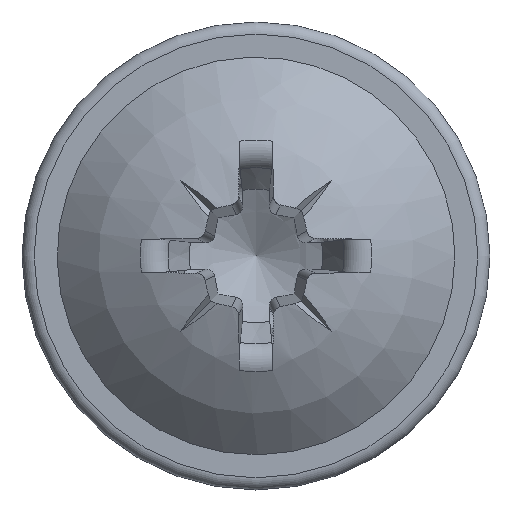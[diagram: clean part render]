
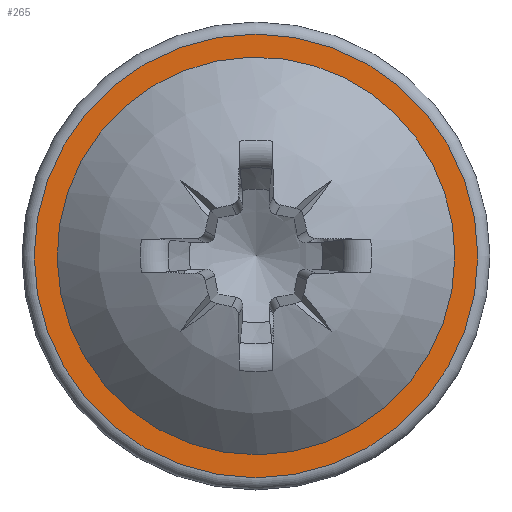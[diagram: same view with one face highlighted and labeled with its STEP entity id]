
A CAD part, top view. The second image highlights one B-rep face of the part: STEP entity #265.
In plain terms, the highlighted planar face has unit normal (0, 0, 1).
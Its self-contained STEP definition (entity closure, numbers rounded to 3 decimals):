
#71=PLANE('',#1502);
#239=FACE_BOUND('',#447,.T.);
#240=FACE_BOUND('',#448,.T.);
#265=ADVANCED_FACE('',(#239,#240),#71,.F.);
#447=EDGE_LOOP('',(#658));
#448=EDGE_LOOP('',(#659));
#534=CIRCLE('',#1460,5.738);
#569=CIRCLE('',#1501,6.4);
#658=ORIENTED_EDGE('',*,*,#1213,.T.);
#659=ORIENTED_EDGE('',*,*,#1162,.F.);
#1024=VERTEX_POINT('',#2519);
#1073=VERTEX_POINT('',#2823);
#1162=EDGE_CURVE('',#1024,#1024,#534,.T.);
#1213=EDGE_CURVE('',#1073,#1073,#569,.T.);
#1460=AXIS2_PLACEMENT_3D('',#2518,#1571,#1572);
#1501=AXIS2_PLACEMENT_3D('',#2822,#1654,#1655);
#1502=AXIS2_PLACEMENT_3D('',#2824,#1656,#1657);
#1571=DIRECTION('',(0.,0.,1.));
#1572=DIRECTION('',(1.,0.,0.));
#1654=DIRECTION('',(0.,0.,1.));
#1655=DIRECTION('',(-1.,0.,0.));
#1656=DIRECTION('',(0.,0.,-1.));
#1657=DIRECTION('',(-1.,0.,0.));
#2518=CARTESIAN_POINT('',(0.,0.,1.4));
#2519=CARTESIAN_POINT('',(5.738,0.,1.4));
#2822=CARTESIAN_POINT('',(0.,0.,1.4));
#2823=CARTESIAN_POINT('',(-6.4,0.,1.4));
#2824=CARTESIAN_POINT('',(0.,6.75,1.4));
